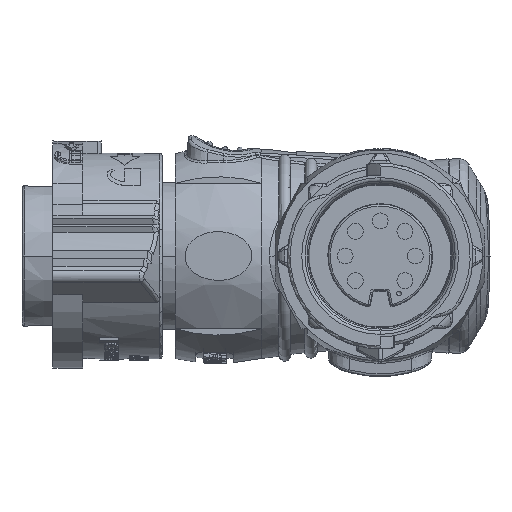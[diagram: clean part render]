
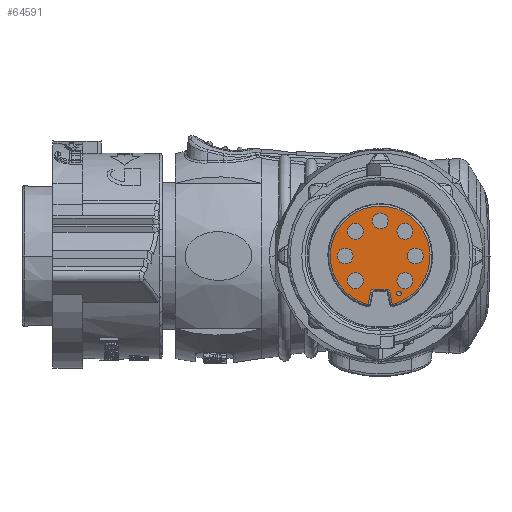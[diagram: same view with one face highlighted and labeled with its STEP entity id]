
A CAD part, left-side view. The second image highlights one B-rep face of the part: STEP entity #64591.
In plain terms, the highlighted planar face has unit normal (-1, 0, 0).
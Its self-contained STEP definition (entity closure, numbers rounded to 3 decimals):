
#17056=DIRECTION('',(0.,-1.,0.));
#17057=VECTOR('',#17056,1.278);
#17058=CARTESIAN_POINT('',(1.5,0.639,
-3.536));
#17059=LINE('',#17058,#17057);
#17060=CARTESIAN_POINT('',(1.5,0.639,
-3.536));
#17061=CARTESIAN_POINT('',(1.5,0.662,
-3.536));
#17062=CARTESIAN_POINT('',(1.5,0.706,
-3.54));
#17063=CARTESIAN_POINT('',(1.5,0.773,
-3.557));
#17064=CARTESIAN_POINT('',(1.5,0.836,
-3.586));
#17065=CARTESIAN_POINT('',(1.5,0.893,
-3.625));
#17066=CARTESIAN_POINT('',(1.5,0.942,
-3.673));
#17067=CARTESIAN_POINT('',(1.5,0.983,
-3.728));
#17068=CARTESIAN_POINT('',(1.5,1.013,
-3.79));
#17069=CARTESIAN_POINT('',(1.5,1.026,
-3.833));
#17070=CARTESIAN_POINT('',(1.5,1.031,
-3.855));
#17072=DIRECTION('',(0.,-0.203,0.979));
#17073=VECTOR('',#17072,1.347);
#17074=CARTESIAN_POINT('',(1.5,1.304,-5.175));
#17075=LINE('',#17074,#17073);
#17076=CARTESIAN_POINT('',(1.5,0.,0.));
#17077=DIRECTION('',(-1.,0.,0.));
#17078=DIRECTION('',(0.,-0.244,-0.97));
#17079=AXIS2_PLACEMENT_3D('',#17076,#17077,#17078);
#17081=DIRECTION('',(0.,-0.203,-0.979));
#17082=VECTOR('',#17081,1.347);
#17083=CARTESIAN_POINT('',(1.5,-1.031,
-3.855));
#17084=LINE('',#17083,#17082);
#17085=CARTESIAN_POINT('',(1.5,-1.031,
-3.855));
#17086=CARTESIAN_POINT('',(1.5,-1.026,
-3.833));
#17087=CARTESIAN_POINT('',(1.5,-1.013,
-3.79));
#17088=CARTESIAN_POINT('',(1.5,-0.983,
-3.728));
#17089=CARTESIAN_POINT('',(1.5,-0.942,
-3.672));
#17090=CARTESIAN_POINT('',(1.5,-0.893,
-3.625));
#17091=CARTESIAN_POINT('',(1.5,-0.836,
-3.586));
#17092=CARTESIAN_POINT('',(1.5,-0.773,
-3.557));
#17093=CARTESIAN_POINT('',(1.5,-0.706,
-3.54));
#17094=CARTESIAN_POINT('',(1.5,-0.662,
-3.536));
#17095=CARTESIAN_POINT('',(1.5,-0.639,
-3.536));
#17097=CARTESIAN_POINT('',(1.5,-2.65,-2.65));
#17098=DIRECTION('',(1.,0.,0.));
#17099=DIRECTION('',(0.,0.,1.));
#17100=AXIS2_PLACEMENT_3D('',#17097,#17098,#17099);
#17102=CARTESIAN_POINT('',(1.5,-2.65,-2.65));
#17103=DIRECTION('',(1.,0.,0.));
#17104=DIRECTION('',(0.,0.,-1.));
#17105=AXIS2_PLACEMENT_3D('',#17102,#17103,#17104);
#17107=CARTESIAN_POINT('',(1.5,2.65,-2.65));
#17108=DIRECTION('',(1.,0.,0.));
#17109=DIRECTION('',(0.,0.,1.));
#17110=AXIS2_PLACEMENT_3D('',#17107,#17108,#17109);
#17112=CARTESIAN_POINT('',(1.5,2.65,-2.65));
#17113=DIRECTION('',(1.,0.,0.));
#17114=DIRECTION('',(0.,0.,-1.));
#17115=AXIS2_PLACEMENT_3D('',#17112,#17113,#17114);
#17117=CARTESIAN_POINT('',(1.5,-3.75,0.));
#17118=DIRECTION('',(1.,0.,0.));
#17119=DIRECTION('',(0.,0.,1.));
#17120=AXIS2_PLACEMENT_3D('',#17117,#17118,#17119);
#17122=CARTESIAN_POINT('',(1.5,-3.75,0.));
#17123=DIRECTION('',(1.,0.,0.));
#17124=DIRECTION('',(0.,0.,-1.));
#17125=AXIS2_PLACEMENT_3D('',#17122,#17123,#17124);
#17127=CARTESIAN_POINT('',(1.5,3.75,0.));
#17128=DIRECTION('',(1.,0.,0.));
#17129=DIRECTION('',(0.,0.,1.));
#17130=AXIS2_PLACEMENT_3D('',#17127,#17128,#17129);
#17132=CARTESIAN_POINT('',(1.5,3.75,0.));
#17133=DIRECTION('',(1.,0.,0.));
#17134=DIRECTION('',(0.,0.,-1.));
#17135=AXIS2_PLACEMENT_3D('',#17132,#17133,#17134);
#17137=CARTESIAN_POINT('',(1.5,-2.65,2.65));
#17138=DIRECTION('',(1.,0.,0.));
#17139=DIRECTION('',(0.,0.,1.));
#17140=AXIS2_PLACEMENT_3D('',#17137,#17138,#17139);
#17142=CARTESIAN_POINT('',(1.5,-2.65,2.65));
#17143=DIRECTION('',(1.,0.,0.));
#17144=DIRECTION('',(0.,0.,-1.));
#17145=AXIS2_PLACEMENT_3D('',#17142,#17143,#17144);
#17147=CARTESIAN_POINT('',(1.5,2.65,2.65));
#17148=DIRECTION('',(1.,0.,0.));
#17149=DIRECTION('',(0.,0.,1.));
#17150=AXIS2_PLACEMENT_3D('',#17147,#17148,#17149);
#17152=CARTESIAN_POINT('',(1.5,2.65,2.65));
#17153=DIRECTION('',(1.,0.,0.));
#17154=DIRECTION('',(0.,0.,-1.));
#17155=AXIS2_PLACEMENT_3D('',#17152,#17153,#17154);
#17157=CARTESIAN_POINT('',(1.5,0.,3.75));
#17158=DIRECTION('',(1.,0.,0.));
#17159=DIRECTION('',(0.,0.,1.));
#17160=AXIS2_PLACEMENT_3D('',#17157,#17158,#17159);
#17162=CARTESIAN_POINT('',(1.5,0.,3.75));
#17163=DIRECTION('',(1.,0.,0.));
#17164=DIRECTION('',(0.,0.,-1.));
#17165=AXIS2_PLACEMENT_3D('',#17162,#17163,#17164);
#17167=CARTESIAN_POINT('',(1.5,-2.,-4.));
#17168=DIRECTION('',(-1.,0.,0.));
#17169=DIRECTION('',(0.,0.,-1.));
#17170=AXIS2_PLACEMENT_3D('',#17167,#17168,#17169);
#17172=CARTESIAN_POINT('',(1.5,-2.,-4.));
#17173=DIRECTION('',(1.,0.,0.));
#17174=DIRECTION('',(0.,0.,-1.));
#17175=AXIS2_PLACEMENT_3D('',#17172,#17173,#17174);
#38643=CARTESIAN_POINT('',(1.5,-2.65,-1.8));
#38644=CARTESIAN_POINT('',(1.5,-2.65,-3.5));
#38645=VERTEX_POINT('',#38643);
#38646=VERTEX_POINT('',#38644);
#38647=CARTESIAN_POINT('',(1.5,2.65,-1.8));
#38648=CARTESIAN_POINT('',(1.5,2.65,-3.5));
#38649=VERTEX_POINT('',#38647);
#38650=VERTEX_POINT('',#38648);
#38651=CARTESIAN_POINT('',(1.5,-3.75,0.85));
#38652=CARTESIAN_POINT('',(1.5,-3.75,-0.85));
#38653=VERTEX_POINT('',#38651);
#38654=VERTEX_POINT('',#38652);
#38655=CARTESIAN_POINT('',(1.5,3.75,0.85));
#38656=CARTESIAN_POINT('',(1.5,3.75,-0.85));
#38657=VERTEX_POINT('',#38655);
#38658=VERTEX_POINT('',#38656);
#38659=CARTESIAN_POINT('',(1.5,-2.65,3.5));
#38660=CARTESIAN_POINT('',(1.5,-2.65,1.8));
#38661=VERTEX_POINT('',#38659);
#38662=VERTEX_POINT('',#38660);
#38663=CARTESIAN_POINT('',(1.5,2.65,3.5));
#38664=CARTESIAN_POINT('',(1.5,2.65,1.8));
#38665=VERTEX_POINT('',#38663);
#38666=VERTEX_POINT('',#38664);
#38667=CARTESIAN_POINT('',(1.5,0.,4.6));
#38668=CARTESIAN_POINT('',(1.5,0.,2.9));
#38669=VERTEX_POINT('',#38667);
#38670=VERTEX_POINT('',#38668);
#38671=CARTESIAN_POINT('',(1.5,0.639,
-3.536));
#38672=CARTESIAN_POINT('',(1.5,-0.639,
-3.536));
#38673=VERTEX_POINT('',#38671);
#38674=VERTEX_POINT('',#38672);
#38679=CARTESIAN_POINT('',(1.5,-1.031,
-3.855));
#38680=CARTESIAN_POINT('',(1.5,-1.304,-5.175));
#38681=VERTEX_POINT('',#38679);
#38682=VERTEX_POINT('',#38680);
#38691=CARTESIAN_POINT('',(1.5,1.304,-5.175));
#38692=VERTEX_POINT('',#38691);
#38697=CARTESIAN_POINT('',(1.5,1.031,
-3.855));
#38698=VERTEX_POINT('',#38697);
#38735=CARTESIAN_POINT('',(1.5,-2.,-4.25));
#38736=CARTESIAN_POINT('',(1.5,-2.,-3.75));
#38737=VERTEX_POINT('',#38735);
#38738=VERTEX_POINT('',#38736);
#64526=CARTESIAN_POINT('',(1.5,0.,0.));
#64527=DIRECTION('',(-1.,0.,0.));
#64528=DIRECTION('',(0.,1.,0.));
#64529=AXIS2_PLACEMENT_3D('',#64526,#64527,#64528);
#64530=PLANE('',#64529);
#64532=ORIENTED_EDGE('',*,*,#64531,.F.);
#64534=ORIENTED_EDGE('',*,*,#64533,.T.);
#64536=ORIENTED_EDGE('',*,*,#64535,.F.);
#64537=ORIENTED_EDGE('',*,*,#64491,.F.);
#64538=ORIENTED_EDGE('',*,*,#64516,.F.);
#64540=ORIENTED_EDGE('',*,*,#64539,.T.);
#64541=EDGE_LOOP('',(#64532,#64534,#64536,#64537,#64538,#64540));
#64542=FACE_OUTER_BOUND('',#64541,.F.);
#64544=ORIENTED_EDGE('',*,*,#64543,.F.);
#64546=ORIENTED_EDGE('',*,*,#64545,.F.);
#64547=EDGE_LOOP('',(#64544,#64546));
#64548=FACE_BOUND('',#64547,.F.);
#64550=ORIENTED_EDGE('',*,*,#64549,.F.);
#64552=ORIENTED_EDGE('',*,*,#64551,.F.);
#64553=EDGE_LOOP('',(#64550,#64552));
#64554=FACE_BOUND('',#64553,.F.);
#64556=ORIENTED_EDGE('',*,*,#64555,.F.);
#64558=ORIENTED_EDGE('',*,*,#64557,.F.);
#64559=EDGE_LOOP('',(#64556,#64558));
#64560=FACE_BOUND('',#64559,.F.);
#64562=ORIENTED_EDGE('',*,*,#64561,.F.);
#64564=ORIENTED_EDGE('',*,*,#64563,.F.);
#64565=EDGE_LOOP('',(#64562,#64564));
#64566=FACE_BOUND('',#64565,.F.);
#64568=ORIENTED_EDGE('',*,*,#64567,.F.);
#64570=ORIENTED_EDGE('',*,*,#64569,.F.);
#64571=EDGE_LOOP('',(#64568,#64570));
#64572=FACE_BOUND('',#64571,.F.);
#64574=ORIENTED_EDGE('',*,*,#64573,.F.);
#64576=ORIENTED_EDGE('',*,*,#64575,.F.);
#64577=EDGE_LOOP('',(#64574,#64576));
#64578=FACE_BOUND('',#64577,.F.);
#64580=ORIENTED_EDGE('',*,*,#64579,.F.);
#64582=ORIENTED_EDGE('',*,*,#64581,.F.);
#64583=EDGE_LOOP('',(#64580,#64582));
#64584=FACE_BOUND('',#64583,.F.);
#64586=ORIENTED_EDGE('',*,*,#64585,.T.);
#64588=ORIENTED_EDGE('',*,*,#64587,.F.);
#64589=EDGE_LOOP('',(#64586,#64588));
#64590=FACE_BOUND('',#64589,.F.);
#64591=ADVANCED_FACE('',(#64542,#64548,#64554,#64560,#64566,#64572,#64578,
#64584,#64590),#64530,.T.);
#17071=B_SPLINE_CURVE_WITH_KNOTS('',3,(#17060,#17061,#17062,#17063,#17064,
#17065,#17066,#17067,#17068,#17069,#17070),.UNSPECIFIED.,.F.,.F.,(4,1,1,1,1,1,1,
1,4),(0.,0.125,0.25,0.375,0.5,0.625,0.75,0.875,1.),
.UNSPECIFIED.);
#17080=CIRCLE('',#17079,5.336);
#17096=B_SPLINE_CURVE_WITH_KNOTS('',3,(#17085,#17086,#17087,#17088,#17089,
#17090,#17091,#17092,#17093,#17094,#17095),.UNSPECIFIED.,.F.,.F.,(4,1,1,1,1,1,1,
1,4),(0.,0.125,0.25,0.375,0.5,0.625,0.75,0.875,1.),
.UNSPECIFIED.);
#17101=CIRCLE('',#17100,0.85);
#17106=CIRCLE('',#17105,0.85);
#17111=CIRCLE('',#17110,0.85);
#17116=CIRCLE('',#17115,0.85);
#17121=CIRCLE('',#17120,0.85);
#17126=CIRCLE('',#17125,0.85);
#17131=CIRCLE('',#17130,0.85);
#17136=CIRCLE('',#17135,0.85);
#17141=CIRCLE('',#17140,0.85);
#17146=CIRCLE('',#17145,0.85);
#17151=CIRCLE('',#17150,0.85);
#17156=CIRCLE('',#17155,0.85);
#17161=CIRCLE('',#17160,0.85);
#17166=CIRCLE('',#17165,0.85);
#17171=CIRCLE('',#17170,0.25);
#17176=CIRCLE('',#17175,0.25);
#64491=EDGE_CURVE('',#38682,#38692,#17080,.T.);
#64516=EDGE_CURVE('',#38681,#38682,#17084,.T.);
#64531=EDGE_CURVE('',#38673,#38674,#17059,.T.);
#64533=EDGE_CURVE('',#38673,#38698,#17071,.T.);
#64535=EDGE_CURVE('',#38692,#38698,#17075,.T.);
#64539=EDGE_CURVE('',#38681,#38674,#17096,.T.);
#64543=EDGE_CURVE('',#38645,#38646,#17101,.T.);
#64545=EDGE_CURVE('',#38646,#38645,#17106,.T.);
#64549=EDGE_CURVE('',#38649,#38650,#17111,.T.);
#64551=EDGE_CURVE('',#38650,#38649,#17116,.T.);
#64555=EDGE_CURVE('',#38653,#38654,#17121,.T.);
#64557=EDGE_CURVE('',#38654,#38653,#17126,.T.);
#64561=EDGE_CURVE('',#38657,#38658,#17131,.T.);
#64563=EDGE_CURVE('',#38658,#38657,#17136,.T.);
#64567=EDGE_CURVE('',#38661,#38662,#17141,.T.);
#64569=EDGE_CURVE('',#38662,#38661,#17146,.T.);
#64573=EDGE_CURVE('',#38665,#38666,#17151,.T.);
#64575=EDGE_CURVE('',#38666,#38665,#17156,.T.);
#64579=EDGE_CURVE('',#38669,#38670,#17161,.T.);
#64581=EDGE_CURVE('',#38670,#38669,#17166,.T.);
#64585=EDGE_CURVE('',#38737,#38738,#17171,.T.);
#64587=EDGE_CURVE('',#38737,#38738,#17176,.T.);
